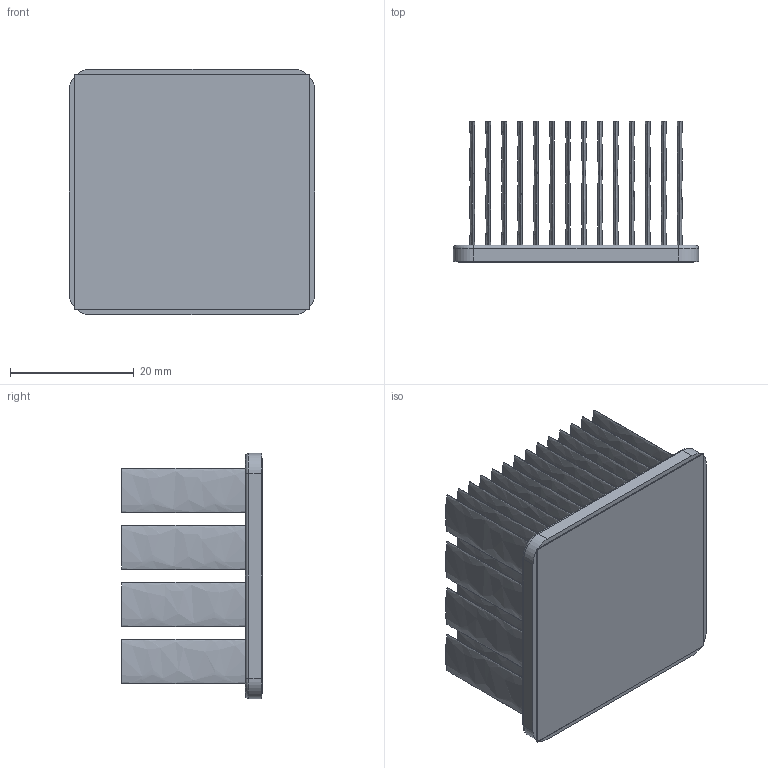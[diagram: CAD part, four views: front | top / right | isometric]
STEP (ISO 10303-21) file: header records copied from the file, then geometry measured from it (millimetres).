
FILE_DESCRIPTION (( 'STEP AP214' ), '1' );
FILE_NAME ('INM40001-23W-2.6.STEP', '2023-02-21T17:41:45', ( '' ), ( '' ), 'SwSTEP 2.0', 'SolidWorks 2020', '' );
FILE_SCHEMA (( 'AUTOMOTIVE_DESIGN' ));
Length unit declared in the file: inch
Products named in the file (1): INM40001-23W-2.6
Bounding box: 39.6 x 22.73 x 39.6 mm (x, y, z)
Volume: 9385.7 mm3; surface area: 22863.2 mm2
Topology: 2 solids, 2 shells, 192 faces, 388 edges, 256 vertices
Faces by surface type: bspline 112, plane 68, cylinder 8, torus 4
Entity records: 7791 total; most frequent: CARTESIAN_POINT 2293, ORIENTED_EDGE 776, EDGE_CURVE 388, DIRECTION 346, VERTEX_POINT 256, EDGE_LOOP 248, UNCERTAINTY_MEASURE_WITH_UNIT 196, LENGTH_MEASURE_WITH_UNIT 196
